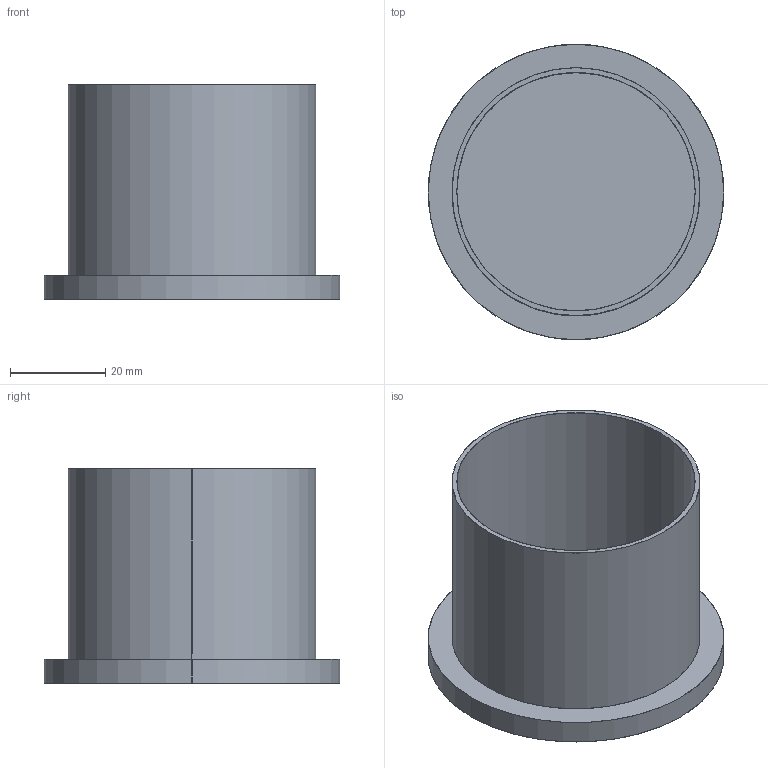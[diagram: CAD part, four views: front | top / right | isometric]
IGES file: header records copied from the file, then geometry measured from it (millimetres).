
Start section: SolidWorks IGES file using analytic representation for surfaces
Global section: file name: C:\Users\danielet\Desktop\3D CARLOS\ORION-E2063-3D\ORION-E2063-3D.IGS; native system: SolidWorks 2018; preprocessor: SolidWorks 2018; author: danielet; date: 220127.110826; units: millimetre
Bounding box: 62 x 62 x 45 mm (x, y, z)
Surface area: 19911.7 mm2 (no closed solid volume)
Topology: 0 solids, 0 shells, 12 faces, 494 edges, 494 vertices
Faces by surface type: revolution 6, bspline 6
